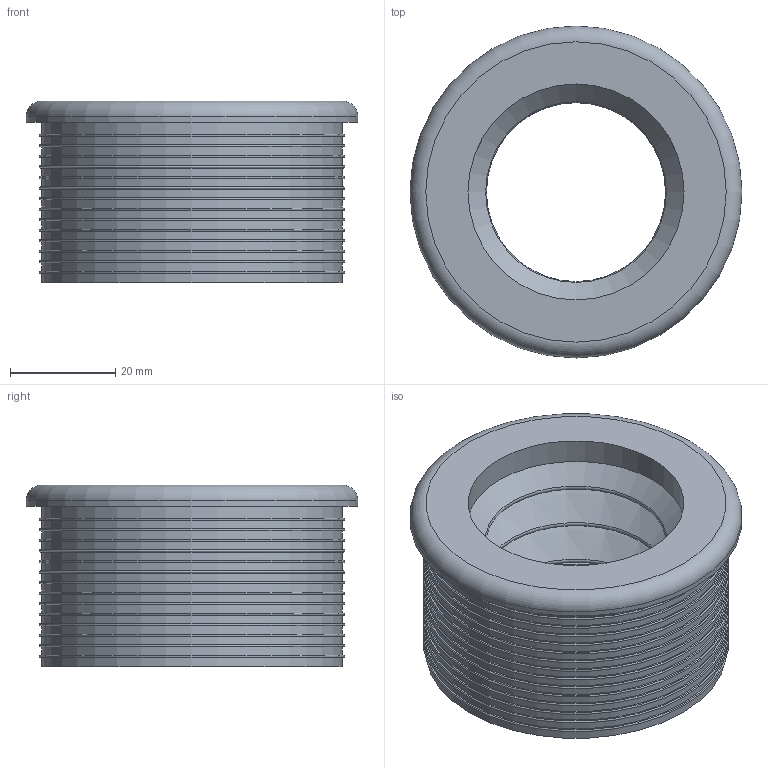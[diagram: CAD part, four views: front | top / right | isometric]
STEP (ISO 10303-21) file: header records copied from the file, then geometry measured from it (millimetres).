
FILE_DESCRIPTION(/* description */ (''),/* implementation_level */ '2;1');
FILE_NAME(/* name */ 'H:\Geberit-Teile\Export\Manschetten 152.6xx\stp\152692.stp',/* time_stamp */ '2016-07-27T14:30:17+02:00',/* author */ ('seihe2'),/* organization */ (''),/* preprocessor_version */ 'ST-DEVELOPER v15.2',/* originating_system */ 'Autodesk Inventor 2014',/* authorisation */ '');
FILE_SCHEMA (('AUTOMOTIVE_DESIGN { 1 0 10303 214 3 1 1 }'));
Length unit declared in the file: millimetre
Products named in the file (1): 152692
Bounding box: 63 x 63 x 34.5 mm (x, y, z)
Volume: 35146.9 mm3; surface area: 24448.9 mm2
Topology: 1 solids, 1 shells, 83 faces, 136 edges, 85 vertices
Faces by surface type: plane 32, torus 24, cylinder 21, cone 6
Full cylindrical faces by diameter (mm): 34 x1, 41 x1, 51 x3, 57 x15, 63 x1
Entity records: 1775 total; most frequent: DIRECTION 334, CARTESIAN_POINT 250, AXIS2_PLACEMENT_3D 167, EDGE_LOOP 166, ORIENTED_EDGE 166, FACE_BOUND 99, STYLED_ITEM 84, CIRCLE 83
